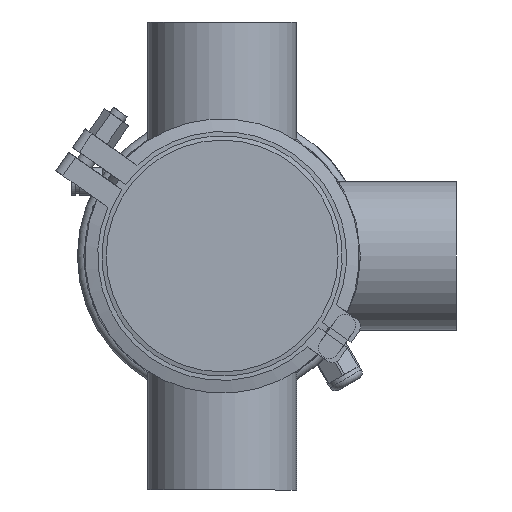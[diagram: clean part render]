
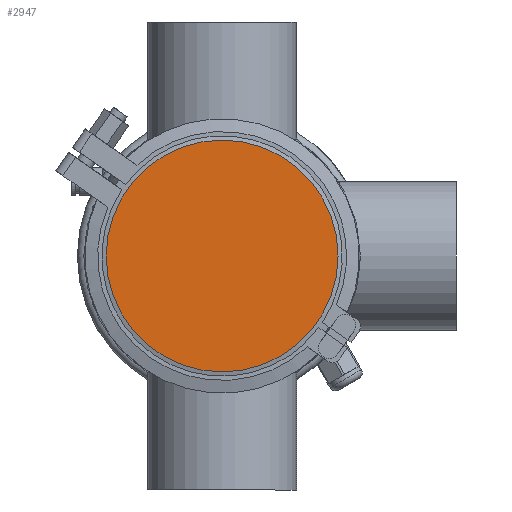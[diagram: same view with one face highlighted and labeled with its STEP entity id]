
A CAD part, front view. The second image highlights one B-rep face of the part: STEP entity #2947.
In plain terms, the highlighted planar face has unit normal (0, -1, 0).
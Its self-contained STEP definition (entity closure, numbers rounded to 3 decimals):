
#2072 = EDGE_CURVE ( 'NONE', #56202, #56202, #11049, .T. ) ;
#2947 = ADVANCED_FACE ( 'NONE', ( #59333 ), #35691, .T. ) ;
#11049 = CIRCLE ( 'NONE', #45835, 54.5 ) ;
#12054 = DIRECTION ( 'NONE',  ( 0., -1., 0. ) ) ;
#13312 = ORIENTED_EDGE ( 'NONE', *, *, #2072, .F. ) ;
#18581 = CARTESIAN_POINT ( 'NONE',  ( 0., 0., 54.5 ) ) ;
#33069 = EDGE_LOOP ( 'NONE', ( #13312 ) ) ;
#35691 = PLANE ( 'NONE',  #58852 ) ;
#36792 = DIRECTION ( 'NONE',  ( 0., 0., 1. ) ) ;
#40842 = DIRECTION ( 'NONE',  ( 0., 1., 0. ) ) ;
#45827 = CARTESIAN_POINT ( 'NONE',  ( 0., 0., 0. ) ) ;
#45835 = AXIS2_PLACEMENT_3D ( 'NONE', #45827, #40842, #36792 ) ;
#54682 = CARTESIAN_POINT ( 'NONE',  ( -54.5, 0., 0. ) ) ;
#56202 = VERTEX_POINT ( 'NONE', #18581 ) ;
#58852 = AXIS2_PLACEMENT_3D ( 'NONE', #54682, #12054, #60877 ) ;
#59333 = FACE_OUTER_BOUND ( 'NONE', #33069, .T. ) ;
#60877 = DIRECTION ( 'NONE',  ( 0., 0., -1. ) ) ;
